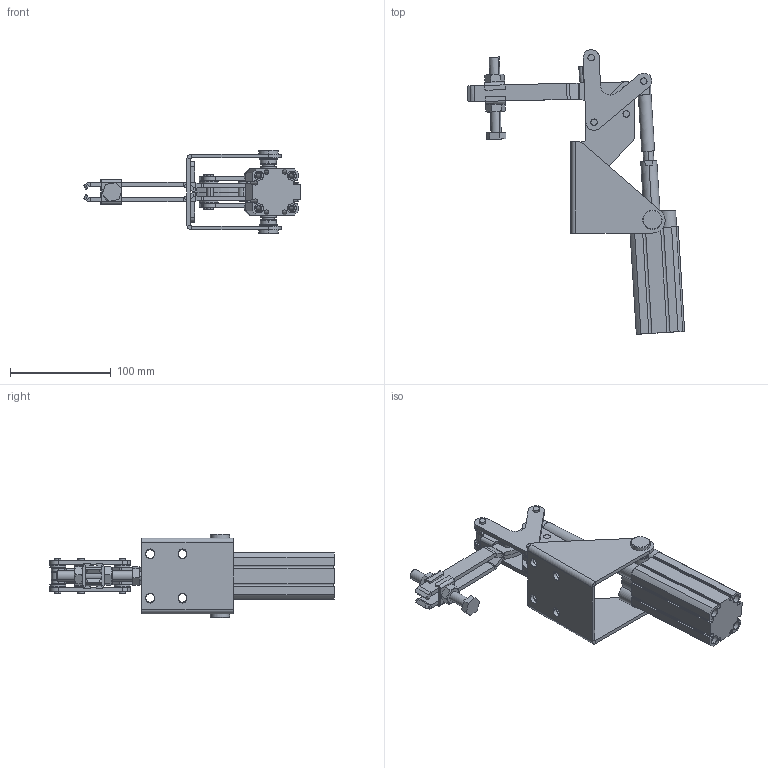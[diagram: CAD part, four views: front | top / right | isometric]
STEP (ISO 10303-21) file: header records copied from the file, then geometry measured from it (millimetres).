
FILE_DESCRIPTION (( 'STEP AP203' ), '1' );
FILE_NAME ('KF-311 DB P.STEP', '2014-08-28T19:32:00', ( 'Ricardo' ), ( '' ), 'SwSTEP 2.0', 'SolidWorks 2013', '' );
FILE_SCHEMA (( 'CONFIG_CONTROL_DESIGN' ));
Length unit declared in the file: millimetre
Products named in the file (25): 02.12023_Esquerda; 16.20067; 01.10092; 03.14004_Direita; 501-016; 17.50008; 03.14004_Esquerda; CNKFE032KT; 05.20021; 04.10002; HI_CD55B32-60(0)_BODY; 15.20011; 16.20070; HI_C55B32-60M(0)_ROD; 06.50007; 05.20005; CD55B32-60M_avan㌢do; 16.20107; 12.50004; KF-311 DB P; 06.50019; 11.50003; 02.12023_Direita; 15.10060; 14.10003
Assembly tree (35 placements, depth 3):
  KF-311 DB P
    02.12023_Direita
    02.12023_Esquerda
    03.14004_Direita
    03.14004_Esquerda
    04.10002
    16.20070
    05.20005
    12.50004
    11.50003  x2
    14.10003  x2
    01.10092  x2
    17.50008  x4
    05.20021  x2
    15.20011
    06.50007
    16.20107  x3
    06.50019
    15.10060
    16.20067  x2
    501-016  x2
    CNKFE032KT
    CD55B32-60M_avan㌢do
      HI_CD55B32-60(0)_BODY
      HI_C55B32-60M(0)_ROD
Bounding box: 215.57 x 282.27 x 83 mm (x, y, z)
Volume: 356327 mm3; surface area: 174596.9 mm2
Topology: 34 solids, 34 shells, 800 faces, 1874 edges, 1173 vertices
Faces by surface type: cylinder 378, plane 333, cone 88, sphere 1
Entity records: 22012 total; most frequent: DIRECTION 3535, CARTESIAN_POINT 3461, ORIENTED_EDGE 3022, EDGE_CURVE 1511, AXIS2_PLACEMENT_3D 1356, VERTEX_POINT 954, VECTOR 823, LINE 823
